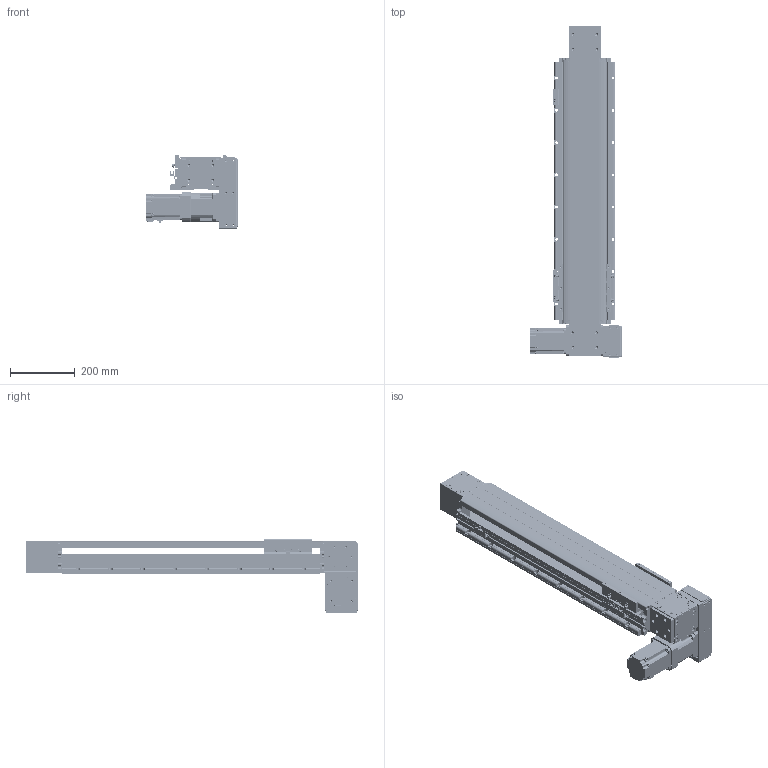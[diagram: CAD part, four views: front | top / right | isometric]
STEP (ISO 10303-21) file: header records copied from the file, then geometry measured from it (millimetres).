
FILE_DESCRIPTION(/* description */ (''),/* implementation_level */ '2;1');
FILE_NAME(/* name */ '\\192.168.0.160\disk1\HAN SHIN Master\B-설계부문\C-표준\B-2024년\BC02-표준도면\+로봇 개선표준도면\홈페이지 표준 도면\홈페이지 최종 작업 폴더\3D\HB\HB160-DR7G-N-0600-L.stp',/* time_stamp */ '2025-01-14T08:47:35+09:00',/* author */ ('user'),/* organization */ (''),/* preprocessor_version */ 'ST-DEVELOPER v18.1',/* originating_system */ 'Autodesk Inventor 2022',/* authorisation */ '');
FILE_SCHEMA (('AUTOMOTIVE_DESIGN { 1 0 10303 214 3 1 1 }'));
Products named in the file (41): HSB160-DR7G-N-0500-L; BASE; HSB160 TABLE (TEST); FORNT HOUSUNG-1 (Connecting); UPCOVER; HSB160 COVER-1; REAR HOUSUNG-1---; HSB160 REAR SHAFT-2; REAR SHAFT--2; 6004ZZ; 6004ZZ Outer ring; 6004ZZ Shield1; 6004ZZ Inner ring; 6004ZZ Ball; 6004ZZ Shield2; STOPPER3; TENSION PLATE; HSB160 ARC COVER; hsr_ftht_A-M6F_grease_nipple_joint; NIPPLE CAP(신규); HSB160 SHAFT-1; HSB160 END COVER; HR120 SENSOR DOG; SENSOR BRK(EE-SX674A); EE_SX674A; hg-kr73_; PGX90-H-1_3; 6206ZZ; 6206ZZ Outer ring; 6206ZZ Shield1; 6206ZZ Inner ring; 6206ZZ Ball; 6206ZZ Shield2; D MOTOR PLATE ASSY; HSB160 D MOTOR PLATE; HR160 400W LR BELT COVER; 750W MOTOR PLATE; HR180 ACRYL COVER - 1; HR180 ACRYL COVER - 1_1; HR180 ACRYL COVER - 1_2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
Assembly tree (85 placements, depth 3):
  HSB160-DR7G-N-0500-L
    BASE
    HSB160 TABLE (TEST)
    FORNT HOUSUNG-1 (Connecting)
    6206ZZ  x2
      6206ZZ Outer ring
      6206ZZ Shield1
      6206ZZ Inner ring
      6206ZZ Ball
      6206ZZ Shield2
    UPCOVER
    HSB160 COVER-1  x2
    REAR HOUSUNG-1---
    6004ZZ  x2
      6004ZZ Outer ring
      6004ZZ Shield1
      6004ZZ Inner ring
      6004ZZ Ball
      6004ZZ Shield2
    HSB160 REAR SHAFT-2
    REAR SHAFT--2
    TENSION PLATE  x2
    HSB160 ARC COVER  x4
    STOPPER3  x4
    hsr_ftht_A-M6F_grease_nipple_joint  x4
    NIPPLE CAP(신규)  x4
    HSB160 SHAFT-1
    HSB160 END COVER
    SENSOR BRK(EE-SX674A)  x3
    EE_SX674A  x3
    HR120 SENSOR DOG
    hg-kr73_
    PGX90-H-1_3
    D MOTOR PLATE ASSY
      HSB160 D MOTOR PLATE
      HR160 400W LR BELT COVER
      750W MOTOR PLATE
      HR180 ACRYL COVER - 1_2  x2
      HR180 ACRYL COVER - 1
      HR180 ACRYL COVER - 1_1
    HSB160 BEARING COVER_대칭도
Bounding box: 284.5 x 1028.5 x 226.5 mm (x, y, z)
Volume: 7362890.9 mm3; surface area: 1857125.3 mm2
Topology: 129 solids, 131 shells, 6398 faces, 17545 edges, 11538 vertices
Faces by surface type: plane 4492, cylinder 1367, cone 367, sphere 88, torus 59, bspline 25
Full cylindrical faces by diameter (mm): 2.013 x2, 2.459 x54, 3 x20, 3.242 x42, 3.4 x22, 3.5 x6, 4.134 x18, 4.2 x4, 4.5 x40, 4.917 x74, 5 x44, 5.1 x1, 5.5 x25, 5.6 x4, 5.9 x4, 6 x21, 6.5 x9, 6.6 x18, 6.8 x9, 7 x32, 7.6 x4, 8 x5, 8.376 x16, 8.433 x2, 9 x4, 9.5 x31, 10 x5, 11 x28, 15 x8, 18.5 x2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
Entity records: 115990 total; most frequent: CARTESIAN_POINT 22038, DIRECTION 19250, ORIENTED_EDGE 18694, EDGE_CURVE 9347, AXIS2_PLACEMENT_3D 6525, LINE 6200, VECTOR 6200, VERTEX_POINT 6179
